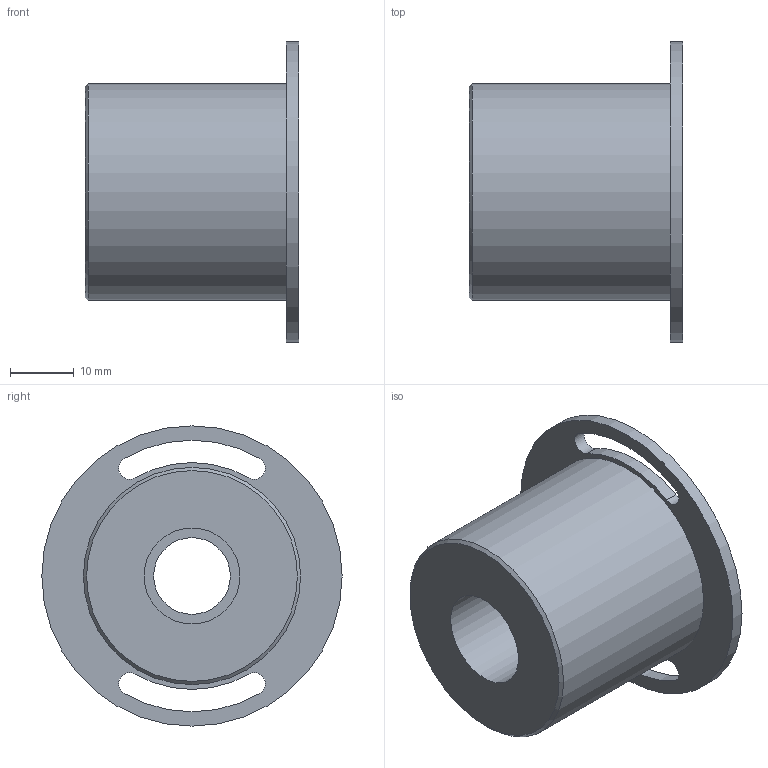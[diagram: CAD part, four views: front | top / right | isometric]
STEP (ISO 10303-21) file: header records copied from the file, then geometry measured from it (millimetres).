
FILE_DESCRIPTION(/* description */ (''),/* implementation_level */ '2;1');
FILE_NAME(/* name */ 'Y:\3DDATA\2_OpticalHard\01_国内製品\2_Holders\GTPC\GTPC-ADP\GTPC-ADP15-29\中間ﾌｧｲﾙ\GTPC-ADP15-29.stp',/* time_stamp */ '2014-07-09T18:19:20+09:00',/* author */ ('t.mukai'),/* organization */ (''),/* preprocessor_version */ 'ST-DEVELOPER v15.2',/* originating_system */ 'Autodesk Inventor 2014',/* authorisation */ '');
FILE_SCHEMA (('AUTOMOTIVE_DESIGN { 1 0 10303 214 3 1 1 }'));
Length unit declared in the file: millimetre
Products named in the file (1): GTPCADP1529-M03-13001
Bounding box: 33.5 x 47 x 47 mm (x, y, z)
Volume: 25875.5 mm3; surface area: 8324.2 mm2
Topology: 1 solids, 1 shells, 17 faces, 39 edges, 26 vertices
Faces by surface type: cylinder 12, plane 4, cone 1
Full cylindrical faces by diameter (mm): 12 x1, 15 x1, 34 x1, 47 x1
Entity records: 500 total; most frequent: DIRECTION 94, CARTESIAN_POINT 76, ORIENTED_EDGE 66, AXIS2_PLACEMENT_3D 43, EDGE_CURVE 33, EDGE_LOOP 30, CIRCLE 25, VERTEX_POINT 25
